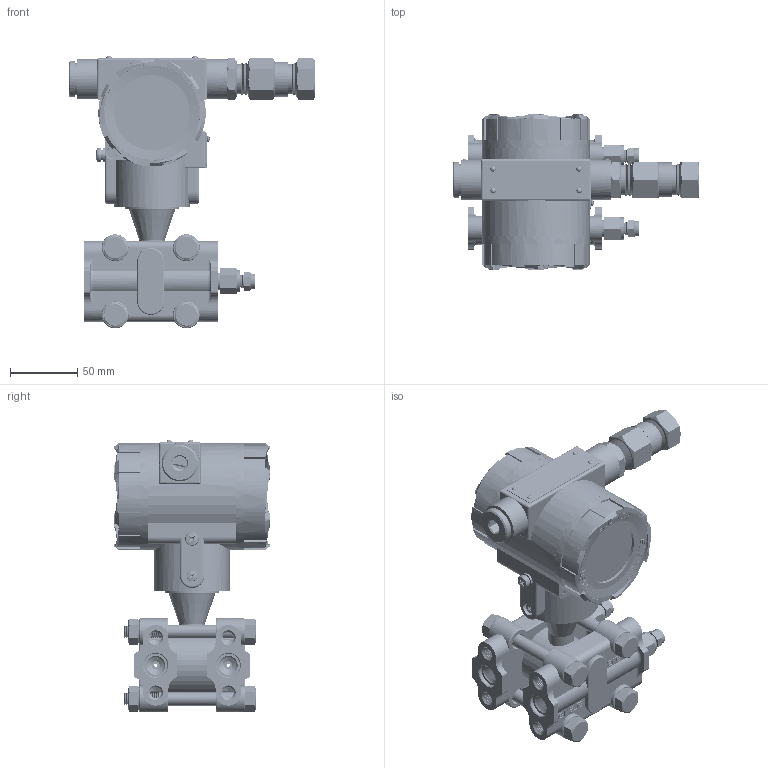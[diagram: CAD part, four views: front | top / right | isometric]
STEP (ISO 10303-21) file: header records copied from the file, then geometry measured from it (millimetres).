
FILE_DESCRIPTION(('STEP AP203'), '1');
FILE_NAME('ﾀﾈﾐ-20_ﾌ2-ﾍ ﾀﾃ-03-420-ﾊﾁ13_3D', '2015-12-02T06:18:03', ('UNSPECIFIED'), ('UNSPECIFIED'), 'ASCON STEP Converter 1.3', 'ASCON Math Kernel', '');
FILE_SCHEMA(('CONFIG_CONTROL_DESIGN'));
Length unit declared in the file: millimetre
Bounding box: 183.5 x 116 x 202.96 mm (x, y, z)
Volume: 654668.1 mm3; surface area: 279544.5 mm2
Topology: 53 solids, 53 shells, 4352 faces, 12464 edges, 8443 vertices
Faces by surface type: plane 2096, cone 1455, cylinder 670, bspline 83, torus 39, sphere 9
Full cylindrical faces by diameter (mm): 2.4 x48, 2.5 x12, 2.9 x4, 3 x2, 3.2 x23, 4 x5, 5 x2, 5.835 x2, 6 x4, 7 x2, 8 x90, 9 x17, 10 x11, 10.5 x4, 11.5 x2, 12 x5, 12.107 x2, 13.2 x1, 13.5 x2, 16.5 x2, 17.5 x5, 18 x2, 18.402 x1, 18.632 x2, 18.8 x2, 19 x2, 19.5 x1, 20 x11, 22 x3, 22.268 x2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
Entity records: 530192 total; most frequent: CARTESIAN_POINT 388557, ORIENTED_EDGE 21560, DIRECTION 21011, EDGE_CURVE 10780, AXIS2_PLACEMENT_3D 8569, VERTEX_POINT 8422, EDGE_LOOP 6300, FACE_BOUND 6022
